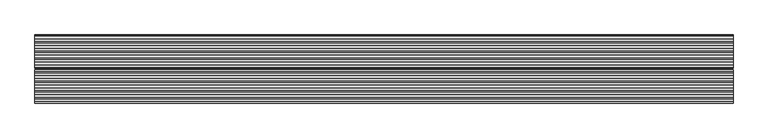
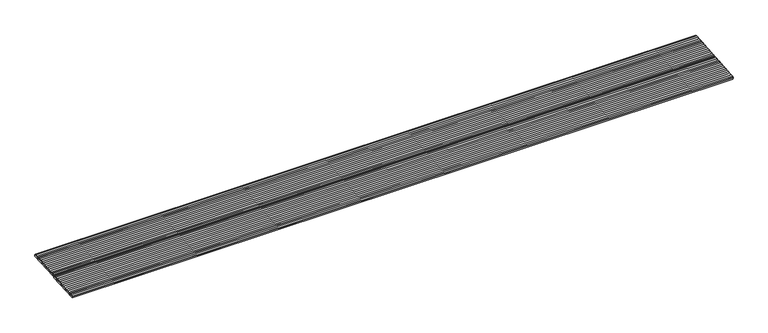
"""IFC4 building model written with IfcOpenShell, lengths in millimetres: proxy geometry, Muestra 2.5m 001 (2filas) : Muestra 2.5m 001(2filas)."""

from ifc_helpers import new_model, si_unit, point, frame, frame_2d, origin, place, context, project, spatial, polyline, circle_curve, trimmed, segment, composite_curve, outline, extrude, source, transform, mapped, element, save


def generic_models_6b5908dc(model_context):
    return source(origin(), model_context, "Body", "SweptSolid", [
        extrude(outline(polyline([(0.0, -118.9996), (0.0, 0.0), (2500.0, 0.0), (2500.0, -118.9996), (0.0, -118.9996)])), frame((99348.2336242, 23311.0587486, -18.949093), z_axis=(0.0, -0.08112705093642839, 0.9967037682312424), x_axis=(1.0, 0.0, 0.0)), (0.0, 0.0, 1.0), 5.0),
        extrude(outline(polyline([(0.0, -118.9996), (0.0, 0.0), (2500.0, 0.0), (2500.0, -118.9996), (0.0, -118.9996)])), frame((99348.2336242, 23435.646321, -8.8082441), z_axis=(0.0, -0.08112705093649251, 0.9967037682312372), x_axis=(1.0, 0.0, 0.0)), (0.0, 0.0, 1.0), 5.0),
        extrude(outline(composite_curve([segment(trimmed(circle_curve(frame_2d((23199.8509147, -14.7379381)), 5.5912705), [point((23195.9096863, -18.7039215))], [point((23204.3816399, -18.0143439))], True, "CARTESIAN"), True, "CONTINUOUS"), segment(trimmed(circle_curve(frame_2d((23208.3228682, -14.0483605)), 5.5912705), [point((23204.3816399, -18.0143439))], [point((23212.8535934, -17.3247663))], True, "CARTESIAN"), True, "CONTINUOUS"), segment(trimmed(circle_curve(frame_2d((23216.7948218, -13.3587829)), 5.5912705), [point((23212.8535934, -17.3247663))], [point((23221.325547, -16.6351887))], True, "CARTESIAN"), True, "CONTINUOUS"), segment(trimmed(circle_curve(frame_2d((23225.2667754, -12.6692053)), 5.5912705), [point((23221.325547, -16.6351887))], [point((23229.7975005, -15.9456111))], True, "CARTESIAN"), True, "CONTINUOUS"), segment(trimmed(circle_curve(frame_2d((23233.7387289, -11.9796277)), 5.5912705), [point((23229.7975005, -15.9456111))], [point((23238.2694541, -15.2560334))], True, "CARTESIAN"), True, "CONTINUOUS"), segment(trimmed(circle_curve(frame_2d((23242.2106825, -11.29005)), 5.5912705), [point((23238.2694541, -15.2560334))], [point((23246.7414076, -14.5664558))], True, "CARTESIAN"), True, "CONTINUOUS"), segment(trimmed(circle_curve(frame_2d((23250.682636, -10.6004724)), 5.5912705), [point((23246.7414076, -14.5664558))], [point((23255.2133612, -13.8768782))], True, "CARTESIAN"), True, "CONTINUOUS"), segment(trimmed(circle_curve(frame_2d((23259.1545896, -9.9108948)), 5.5912705), [point((23255.2133612, -13.8768782))], [point((23263.6853147, -13.1873006))], True, "CARTESIAN"), True, "CONTINUOUS"), segment(trimmed(circle_curve(frame_2d((23267.6265431, -9.2213172)), 5.5912705), [point((23263.6853147, -13.1873006))], [point((23272.1572683, -12.497723))], True, "CARTESIAN"), True, "CONTINUOUS"), segment(trimmed(circle_curve(frame_2d((23276.0984967, -8.5317396)), 5.5912705), [point((23272.1572683, -12.497723))], [point((23280.6292218, -11.8081454))], True, "CARTESIAN"), True, "CONTINUOUS"), segment(trimmed(circle_curve(frame_2d((23284.5704502, -7.842162)), 5.5912705), [point((23280.6292218, -11.8081454))], [point((23289.1011754, -11.1185678))], True, "CARTESIAN"), True, "CONTINUOUS"), segment(trimmed(circle_curve(frame_2d((23293.0424038, -7.1525843)), 5.5912705), [point((23289.1011754, -11.1185678))], [point((23297.5731289, -10.4289901))], True, "CARTESIAN"), True, "CONTINUOUS"), segment(trimmed(circle_curve(frame_2d((23301.5143573, -6.4630067)), 5.5912705), [point((23297.5731289, -10.4289901))], [point((23306.0450825, -9.7394125))], True, "CARTESIAN"), True, "CONTINUOUS"), segment(trimmed(circle_curve(frame_2d((23309.9863109, -5.7734291)), 5.5912705), [point((23306.0450825, -9.7394125))], [point((23310.4399142, -11.3462695))], True, "CARTESIAN"), True, "CONTINUOUS"), segment(polyline([(23310.4399142, -11.3462695), (23310.6531134, -13.9655742), (23192.0457636, -23.6196608), (23191.8325644, -21.0003561)]), True, "CONTINUOUS"), segment(trimmed(circle_curve(frame_2d((23191.3789611, -15.4275157)), 5.5912705), [point((23191.8325644, -21.0003561))], [point((23195.9096863, -18.7039215))], True, "CARTESIAN"), True, "CONTINUOUS")], self_intersect=False)), frame((99348.2336242, 0.0, 0.0), z_axis=(1.0, 0.0, 0.0), x_axis=(0.0, 1.0, 0.0)), (0.0, 0.0, 1.0), 2500.0),
        extrude(outline(composite_curve([segment(polyline([(23316.633336, -13.4788119), (23316.4201368, -10.8595072)]), True, "CONTINUOUS"), segment(trimmed(circle_curve(frame_2d((23315.9665335, -5.2866668)), 5.5912705), [point((23316.4201368, -10.8595072))], [point((23320.4972587, -8.5630726))], True, "CARTESIAN"), True, "CONTINUOUS"), segment(trimmed(circle_curve(frame_2d((23324.438487, -4.5970892)), 5.5912705), [point((23320.4972587, -8.5630726))], [point((23328.9692122, -7.873495))], True, "CARTESIAN"), True, "CONTINUOUS"), segment(trimmed(circle_curve(frame_2d((23332.9104406, -3.9075116)), 5.5912705), [point((23328.9692122, -7.873495))], [point((23337.4411658, -7.1839174))], True, "CARTESIAN"), True, "CONTINUOUS"), segment(trimmed(circle_curve(frame_2d((23341.3823941, -3.217934)), 5.5912705), [point((23337.4411658, -7.1839174))], [point((23345.9131193, -6.4943398))], True, "CARTESIAN"), True, "CONTINUOUS"), segment(trimmed(circle_curve(frame_2d((23349.8543477, -2.5283564)), 5.5912705), [point((23345.9131193, -6.4943398))], [point((23354.3850729, -5.8047621))], True, "CARTESIAN"), True, "CONTINUOUS"), segment(trimmed(circle_curve(frame_2d((23358.3263013, -1.8387787)), 5.5912705), [point((23354.3850729, -5.8047621))], [point((23362.8570264, -5.1151845))], True, "CARTESIAN"), True, "CONTINUOUS"), segment(trimmed(circle_curve(frame_2d((23366.7982548, -1.1492011)), 5.5912705), [point((23362.8570264, -5.1151845))], [point((23371.32898, -4.4256069))], True, "CARTESIAN"), True, "CONTINUOUS"), segment(trimmed(circle_curve(frame_2d((23375.2702084, -0.4596235)), 5.5912705), [point((23371.32898, -4.4256069))], [point((23379.8009335, -3.7360293))], True, "CARTESIAN"), True, "CONTINUOUS"), segment(trimmed(circle_curve(frame_2d((23383.7421619, 0.2299541)), 5.5912705), [point((23379.8009335, -3.7360293))], [point((23388.2728871, -3.0464517))], True, "CARTESIAN"), True, "CONTINUOUS"), segment(trimmed(circle_curve(frame_2d((23392.2141155, 0.9195317)), 5.5912705), [point((23388.2728871, -3.0464517))], [point((23396.7448406, -2.3568741))], True, "CARTESIAN"), True, "CONTINUOUS"), segment(trimmed(circle_curve(frame_2d((23400.686069, 1.6091093)), 5.5912705), [point((23396.7448406, -2.3568741))], [point((23405.2167942, -1.6672965))], True, "CARTESIAN"), True, "CONTINUOUS"), segment(trimmed(circle_curve(frame_2d((23409.1580226, 2.2986869)), 5.5912705), [point((23405.2167942, -1.6672965))], [point((23413.6887477, -0.9777188))], True, "CARTESIAN"), True, "CONTINUOUS"), segment(trimmed(circle_curve(frame_2d((23417.6299761, 2.9882646)), 5.5912705), [point((23413.6887477, -0.9777188))], [point((23422.1607013, -0.2881412))], True, "CARTESIAN"), True, "CONTINUOUS"), segment(trimmed(circle_curve(frame_2d((23426.1019297, 3.6778422)), 5.5912705), [point((23422.1607013, -0.2881412))], [point((23430.6326549, 0.4014364))], True, "CARTESIAN"), True, "CONTINUOUS"), segment(trimmed(circle_curve(frame_2d((23434.5738832, 4.3674198)), 5.5912705), [point((23430.6326549, 0.4014364))], [point((23435.0274865, -1.2054206))], True, "CARTESIAN"), True, "CONTINUOUS"), segment(polyline([(23435.0274865, -1.2054206), (23435.2406857, -3.8247253), (23316.633336, -13.4788119)]), True, "CONTINUOUS")], self_intersect=False)), frame((99348.2336242, 0.0, 0.0), z_axis=(1.0, 0.0, 0.0), x_axis=(0.0, 1.0, 0.0)), (0.0, 0.0, 1.0), 2500.0),
    ])


if __name__ == "__main__":
    model = new_model("IFC4")
    model_context = context("Model", 3, world=origin())
    ifc_project = project(units=[si_unit("LENGTHUNIT", "METRE", prefix="MILLI")], contexts=[model_context])
    site = spatial("IfcSite", under=ifc_project)
    building = spatial("IfcBuilding", under=site)
    placement = place(None, origin())
    generic_models_shape = generic_models_6b5908dc(model_context)
    element("IfcBuildingElementProxy", 1, Name="Muestra 2.5m 001 (2filas) : Muestra 2.5m 001(2filas)", ObjectType="Muestra 2.5m 001 (2filas) : Muestra 2.5m 001(2filas)", at=placement, inside=building, context=model_context, shape_type="MappedRepresentation", body=[
        mapped(generic_models_shape, transform((0.0, 0.0, 0.0), x_axis=(1.0, 0.0, 0.0), y_axis=(0.0, 1.0, 0.0), z_axis=(0.0, 0.0, 1.0))),
    ])
    save(model, "model.ifc")
